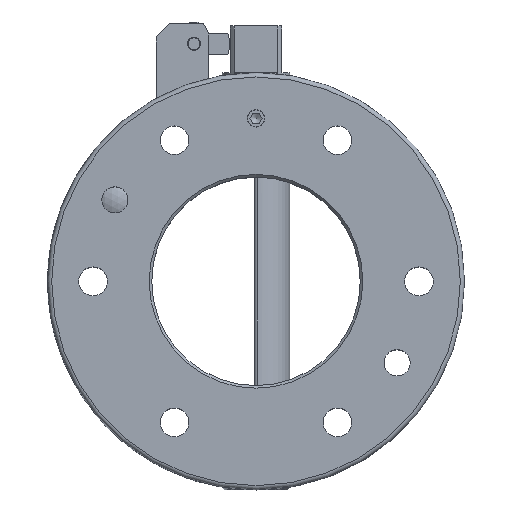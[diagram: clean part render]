
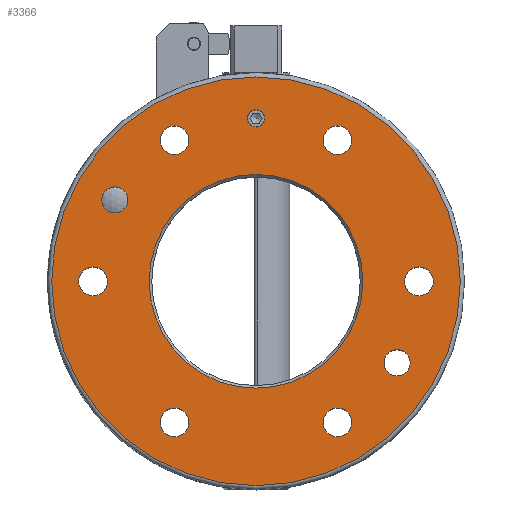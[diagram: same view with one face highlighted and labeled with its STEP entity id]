
A CAD part, top view. The second image highlights one B-rep face of the part: STEP entity #3366.
In plain terms, the highlighted planar face has unit normal (0, 0, 1).
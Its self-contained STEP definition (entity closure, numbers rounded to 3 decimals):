
#65=FACE_BOUND('',#503,.T.);
#66=FACE_BOUND('',#504,.T.);
#67=FACE_BOUND('',#505,.T.);
#68=FACE_BOUND('',#506,.T.);
#69=FACE_BOUND('',#507,.T.);
#70=FACE_BOUND('',#508,.T.);
#71=FACE_BOUND('',#509,.T.);
#72=FACE_BOUND('',#510,.T.);
#73=FACE_BOUND('',#511,.T.);
#74=FACE_BOUND('',#512,.T.);
#117=PLANE('',#3603);
#311=FACE_OUTER_BOUND('',#502,.T.);
#502=EDGE_LOOP('',(#2232));
#503=EDGE_LOOP('',(#2233));
#504=EDGE_LOOP('',(#2234));
#505=EDGE_LOOP('',(#2235));
#506=EDGE_LOOP('',(#2236));
#507=EDGE_LOOP('',(#2237));
#508=EDGE_LOOP('',(#2238));
#509=EDGE_LOOP('',(#2239));
#510=EDGE_LOOP('',(#2240,#2241));
#511=EDGE_LOOP('',(#2242,#2243));
#512=EDGE_LOOP('',(#2244,#2245));
#1185=CIRCLE('',#3602,78.4);
#1186=CIRCLE('',#3604,41.);
#1187=CIRCLE('',#3605,5.5);
#1188=CIRCLE('',#3606,5.5);
#1189=CIRCLE('',#3607,5.5);
#1190=CIRCLE('',#3608,5.5);
#1191=CIRCLE('',#3609,5.5);
#1192=CIRCLE('',#3610,5.5);
#1193=CIRCLE('',#3611,5.);
#1194=CIRCLE('',#3612,5.);
#1195=CIRCLE('',#3613,5.);
#1196=CIRCLE('',#3614,5.);
#1197=CIRCLE('',#3615,3.324);
#1198=CIRCLE('',#3616,3.324);
#1395=VERTEX_POINT('',#5091);
#1396=VERTEX_POINT('',#5095);
#1397=VERTEX_POINT('',#5097);
#1398=VERTEX_POINT('',#5099);
#1399=VERTEX_POINT('',#5101);
#1400=VERTEX_POINT('',#5103);
#1401=VERTEX_POINT('',#5105);
#1402=VERTEX_POINT('',#5107);
#1403=VERTEX_POINT('',#5109);
#1404=VERTEX_POINT('',#5110);
#1405=VERTEX_POINT('',#5113);
#1406=VERTEX_POINT('',#5114);
#1407=VERTEX_POINT('',#5117);
#1408=VERTEX_POINT('',#5118);
#1738=EDGE_CURVE('',#1395,#1395,#1185,.T.);
#1739=EDGE_CURVE('',#1396,#1396,#1186,.T.);
#1740=EDGE_CURVE('',#1397,#1397,#1187,.T.);
#1741=EDGE_CURVE('',#1398,#1398,#1188,.T.);
#1742=EDGE_CURVE('',#1399,#1399,#1189,.T.);
#1743=EDGE_CURVE('',#1400,#1400,#1190,.T.);
#1744=EDGE_CURVE('',#1401,#1401,#1191,.T.);
#1745=EDGE_CURVE('',#1402,#1402,#1192,.T.);
#1746=EDGE_CURVE('',#1403,#1404,#1193,.T.);
#1747=EDGE_CURVE('',#1404,#1403,#1194,.T.);
#1748=EDGE_CURVE('',#1405,#1406,#1195,.T.);
#1749=EDGE_CURVE('',#1406,#1405,#1196,.T.);
#1750=EDGE_CURVE('',#1407,#1408,#1197,.T.);
#1751=EDGE_CURVE('',#1408,#1407,#1198,.T.);
#2232=ORIENTED_EDGE('',*,*,#1738,.F.);
#2233=ORIENTED_EDGE('',*,*,#1739,.F.);
#2234=ORIENTED_EDGE('',*,*,#1740,.T.);
#2235=ORIENTED_EDGE('',*,*,#1741,.T.);
#2236=ORIENTED_EDGE('',*,*,#1742,.T.);
#2237=ORIENTED_EDGE('',*,*,#1743,.T.);
#2238=ORIENTED_EDGE('',*,*,#1744,.T.);
#2239=ORIENTED_EDGE('',*,*,#1745,.T.);
#2240=ORIENTED_EDGE('',*,*,#1746,.T.);
#2241=ORIENTED_EDGE('',*,*,#1747,.T.);
#2242=ORIENTED_EDGE('',*,*,#1748,.T.);
#2243=ORIENTED_EDGE('',*,*,#1749,.T.);
#2244=ORIENTED_EDGE('',*,*,#1750,.T.);
#2245=ORIENTED_EDGE('',*,*,#1751,.T.);
#3366=ADVANCED_FACE('',(#311,#65,#66,#67,#68,#69,#70,#71,#72,#73,#74),#117,
 .F.);
#3602=AXIS2_PLACEMENT_3D('',#5093,#4026,#4027);
#3603=AXIS2_PLACEMENT_3D('',#5094,#4028,#4029);
#3604=AXIS2_PLACEMENT_3D('',#5096,#4030,#4031);
#3605=AXIS2_PLACEMENT_3D('',#5098,#4032,#4033);
#3606=AXIS2_PLACEMENT_3D('',#5100,#4034,#4035);
#3607=AXIS2_PLACEMENT_3D('',#5102,#4036,#4037);
#3608=AXIS2_PLACEMENT_3D('',#5104,#4038,#4039);
#3609=AXIS2_PLACEMENT_3D('',#5106,#4040,#4041);
#3610=AXIS2_PLACEMENT_3D('',#5108,#4042,#4043);
#3611=AXIS2_PLACEMENT_3D('',#5111,#4044,#4045);
#3612=AXIS2_PLACEMENT_3D('',#5112,#4046,#4047);
#3613=AXIS2_PLACEMENT_3D('',#5115,#4048,#4049);
#3614=AXIS2_PLACEMENT_3D('',#5116,#4050,#4051);
#3615=AXIS2_PLACEMENT_3D('',#5119,#4052,#4053);
#3616=AXIS2_PLACEMENT_3D('',#5120,#4054,#4055);
#4026=DIRECTION('center_axis',(0.,0.,-1.));
#4027=DIRECTION('ref_axis',(-1.,0.,0.));
#4028=DIRECTION('center_axis',(0.,0.,-1.));
#4029=DIRECTION('ref_axis',(-1.,0.,0.));
#4030=DIRECTION('center_axis',(0.,0.,1.));
#4031=DIRECTION('ref_axis',(-1.,0.,0.));
#4032=DIRECTION('center_axis',(0.,0.,-1.));
#4033=DIRECTION('ref_axis',(-0.5,-0.866,0.));
#4034=DIRECTION('center_axis',(0.,0.,-1.));
#4035=DIRECTION('ref_axis',(0.5,-0.866,0.));
#4036=DIRECTION('center_axis',(0.,0.,-1.));
#4037=DIRECTION('ref_axis',(1.,0.,0.));
#4038=DIRECTION('center_axis',(0.,0.,-1.));
#4039=DIRECTION('ref_axis',(0.5,0.866,0.));
#4040=DIRECTION('center_axis',(0.,0.,-1.));
#4041=DIRECTION('ref_axis',(-0.5,0.866,0.));
#4042=DIRECTION('center_axis',(0.,0.,-1.));
#4043=DIRECTION('ref_axis',(-1.,0.,0.));
#4044=DIRECTION('center_axis',(0.,0.,-1.));
#4045=DIRECTION('ref_axis',(1.,0.,0.));
#4046=DIRECTION('center_axis',(0.,0.,-1.));
#4047=DIRECTION('ref_axis',(1.,0.,0.));
#4048=DIRECTION('center_axis',(0.,0.,-1.));
#4049=DIRECTION('ref_axis',(1.,0.,0.));
#4050=DIRECTION('center_axis',(0.,0.,-1.));
#4051=DIRECTION('ref_axis',(1.,0.,0.));
#4052=DIRECTION('center_axis',(0.,0.,-1.));
#4053=DIRECTION('ref_axis',(1.,0.,0.));
#4054=DIRECTION('center_axis',(0.,0.,-1.));
#4055=DIRECTION('ref_axis',(1.,0.,0.));
#5091=CARTESIAN_POINT('',(78.4,0.,0.));
#5093=CARTESIAN_POINT('Origin',(0.,0.,0.));
#5094=CARTESIAN_POINT('Origin',(0.,0.,0.));
#5095=CARTESIAN_POINT('',(41.,0.,0.));
#5096=CARTESIAN_POINT('Origin',(0.,0.,0.));
#5097=CARTESIAN_POINT('',(-28.5,-49.363,0.));
#5098=CARTESIAN_POINT('Origin',(-31.25,-54.127,0.));
#5099=CARTESIAN_POINT('',(28.5,-49.363,0.));
#5100=CARTESIAN_POINT('Origin',(31.25,-54.127,0.));
#5101=CARTESIAN_POINT('',(57.,0.,0.));
#5102=CARTESIAN_POINT('Origin',(62.5,0.,0.));
#5103=CARTESIAN_POINT('',(28.5,49.363,0.));
#5104=CARTESIAN_POINT('Origin',(31.25,54.127,0.));
#5105=CARTESIAN_POINT('',(-28.5,49.363,0.));
#5106=CARTESIAN_POINT('Origin',(-31.25,54.127,0.));
#5107=CARTESIAN_POINT('',(-57.,0.,0.));
#5108=CARTESIAN_POINT('Origin',(-62.5,0.,0.));
#5109=CARTESIAN_POINT('',(-49.127,31.25,0.));
#5110=CARTESIAN_POINT('',(-59.127,31.25,0.));
#5111=CARTESIAN_POINT('Origin',(-54.127,31.25,0.));
#5112=CARTESIAN_POINT('Origin',(-54.127,31.25,0.));
#5113=CARTESIAN_POINT('',(59.127,-31.25,0.));
#5114=CARTESIAN_POINT('',(49.127,-31.25,0.));
#5115=CARTESIAN_POINT('Origin',(54.127,-31.25,0.));
#5116=CARTESIAN_POINT('Origin',(54.127,-31.25,0.));
#5117=CARTESIAN_POINT('',(3.324,62.5,0.));
#5118=CARTESIAN_POINT('',(-3.324,62.5,0.));
#5119=CARTESIAN_POINT('Origin',(0.,62.5,0.));
#5120=CARTESIAN_POINT('Origin',(0.,62.5,0.));
